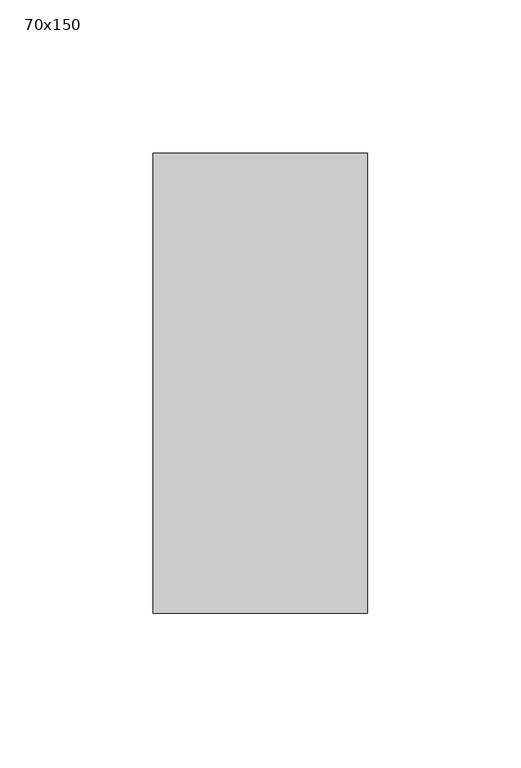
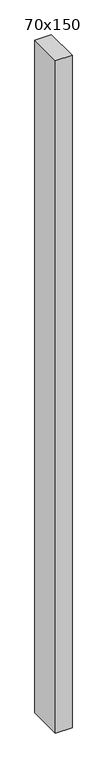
"""IFC4 building model written with IfcOpenShell, lengths in millimetres: member geometry, 長方形のマリオン : 70x150."""

from ifc_helpers import new_model, si_unit, frame, origin, place, context, project, spatial, polyline, outline, extrude, source, transform, mapped, element, save


def member_70x150_cdd4dcf9(model_context):
    return source(origin(), model_context, "Body", "SweptSolid", [
        extrude(outline(polyline([(35.0, 75.0), (35.0, -75.0), (-35.0, -75.0), (-35.0, 75.0), (35.0, 75.0)])), frame((0.0, 0.0, -3000.0), z_axis=(0.0, 0.0, 1.0), x_axis=(1.0, 0.0, 0.0)), (0.0, 0.0, 1.0), 3000.0),
    ])


if __name__ == "__main__":
    model = new_model("IFC4")
    model_context = context("Model", 3, world=origin())
    ifc_project = project(units=[si_unit("LENGTHUNIT", "METRE", prefix="MILLI")], contexts=[model_context])
    site = spatial("IfcSite", under=ifc_project)
    building = spatial("IfcBuilding", under=site)
    placement = place(None, origin())
    member_70x150_shape = member_70x150_cdd4dcf9(model_context)
    element("IfcMember", 1, ObjectType="長方形のマリオン : 70x150", at=placement, inside=building, context=model_context, shape_type="MappedRepresentation", body=[
        mapped(member_70x150_shape, transform((0.0, 0.0, 0.0), x_axis=(1.0, 0.0, 0.0), y_axis=(0.0, 1.0, 0.0), z_axis=(0.0, 0.0, 1.0))),
    ])
    save(model, "model.ifc")
